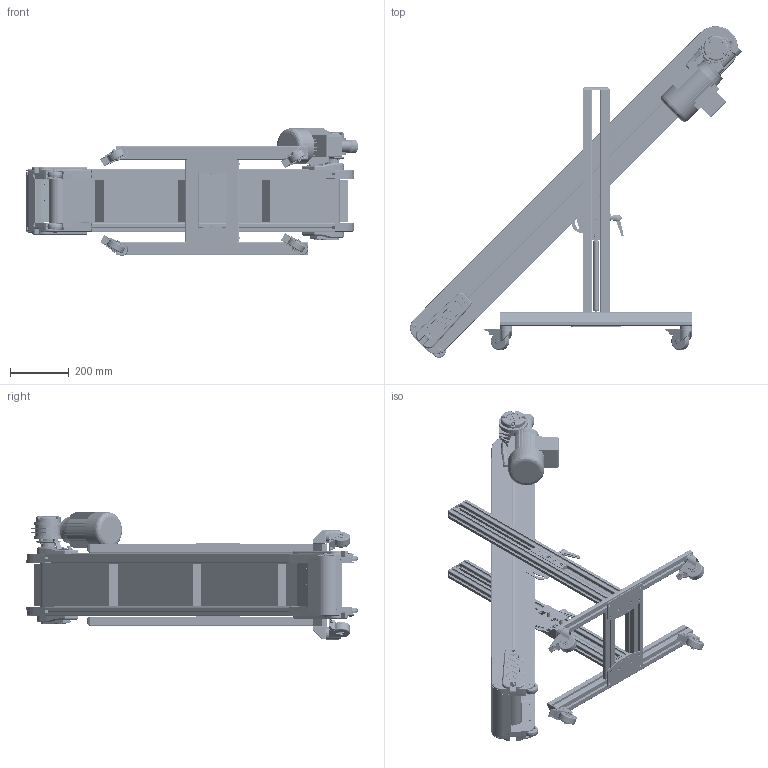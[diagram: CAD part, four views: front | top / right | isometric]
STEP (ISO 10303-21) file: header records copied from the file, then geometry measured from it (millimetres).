
FILE_DESCRIPTION (( 'STEP AP203' ), '1' );
FILE_NAME ('NASTRO_STAMPAGGIO_PLASTICA.step', '2026-04-24T11:32:23', ( 'Utente Windows' ), ( '' ), 'SwSTEP 2.0', 'SolidWorks 2024', '' );
FILE_SCHEMA (( 'CONFIG_CONTROL_DESIGN' ));
Length unit declared in the file: millimetre
Products named in the file (54): 084.527.014 - CORPO; 084.831.KD.44.150_DX; 0412TRSEA2; 084.802.034_084.802.034; TAPPETO_D; 084.831.025; 084.831.020.200; CH04P_DX; TELAIO_D_Default<A macchina>; VITI TCEI UNI 5931_M5x12 UNI 5931; 084.302.075; 084.831.056; NASTRO_STAMPAGGIO_PLASTICA; 084.831.KI.150; VITI TE UNI 5739_M6x120 UNI5739; 084.831.032_Default<A macchina>; 084.802.062; 084.808.012; 084.831.023; 084.831.018.200; RONDELLE FASCIA LARGA UNI 6593_6.4x24 UNI 6593; 084.831.024; RONDELLE FASCIA LARGA UNI 6593_8.4x24 UNI 6593; CHIAVETTE_A 6x6x60 UNI 6604-69; 06KS; 013.100.045; 084.802.061; 084.831.040.150; 361102 serie 36; 084.201.013; MR.63 p-M8x16; VITI TCEI UNI 5931_M8x45 UNI 5931; VITI TE UNI 5739_M6x16 UNI 5739; 084.831.027; 084.527.013; 084.831.004; 084.831.017; 084.802.071; 084.831.006; 013.100.050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
Assembly tree (120 placements, depth 4):
  NASTRO_STAMPAGGIO_PLASTICA
    TAPPETO_D
    TELAIO_D_Default<A macchina>
    084.831.KD.44.150_DX
      084.831.004  x2
      084.831.020.200
      084.831.017  x2
      084.802.071
      084.301.000 VITI ALUSIC_084.301.003
      084.802.034_084.802.034  x2
      084.802.061
      VITI TE UNI 5739_M6x16 UNI 5739  x5
      CHIAVETTE_A 6x6x60 UNI 6604-69
      RONDELLE FASCIA LARGA UNI 6593_6.4x24 UNI 6593
      RONDELLE UNI 6592_8.4x17 UNI 6592
      084.802.062
      084.803.018
      VITI TCEI UNI 5931_M5x12 UNI 5931  x4
      084.808.012
      VITI TE UNI 5739_M8x35 UNI 5739
      0412TRSEA2  x8
    084.831.KP.150
      084.831.032_Default<A macchina>
      084.831.006  x2
      084.404.003  x4
      084.201.013  x4
      013.100.045  x2
      013.100.050  x2
        013.100.050_L
        06KS
      084.831.027  x2
      084.302.075  x4
      MR.63 p-M8x16  x2
      084.831.058  x2
      VITI TCEI UNI 5931_M5x40 UNI 5931  x2
      084.527.013
        084.527.014 - CORPO
        084.527.014 - STELO
      VITI TCEI UNI 5931_M8x45 UNI 5931  x4
      084.527.013
        084.527.014 - CORPO
        084.527.014 - STELO
      084.301.000 VITI ALUSIC_084.301.003  x4
      084.831.056  x2
      RONDELLE FASCIA LARGA UNI 6593_8.4x24 UNI 6593  x2
      RIVM8ESA  x2
    CH04P_DX
    084.831.KI.150
      084.831.001_Default<A macchina>  x2
      084.831.024  x2
      361102 serie 36  x2
      084.831.018.200
      VITI TE UNI 5739_M6x120 UNI5739  x2
      RONDELLE UNI 6592_6.4x12.5 UNI 6592  x2
      084.301.000 VITI ALUSIC_084.301.003  x2
      084.831.025
      084.831.040.150
      084.831.023  x4
      0412TRSEA2  x12
Bounding box: 1127.85 x 1126.07 x 433.32 mm (x, y, z)
Volume: 11918685 mm3; surface area: 8456638 mm2
Topology: 171 solids, 178 shells, 12080 faces, 31972 edges, 20503 vertices
Faces by surface type: plane 5377, cylinder 3617, cone 1410, bspline 987, torus 565, sphere 124
Entity records: 265446 total; most frequent: CARTESIAN_POINT 80369, ORIENTED_EDGE 38962, DIRECTION 35197, EDGE_CURVE 19481, VERTEX_POINT 12552, AXIS2_PLACEMENT_3D 12311, LINE 10575, VECTOR 10575
